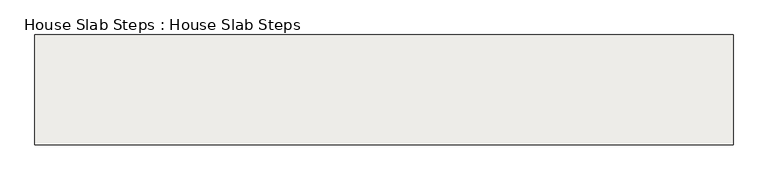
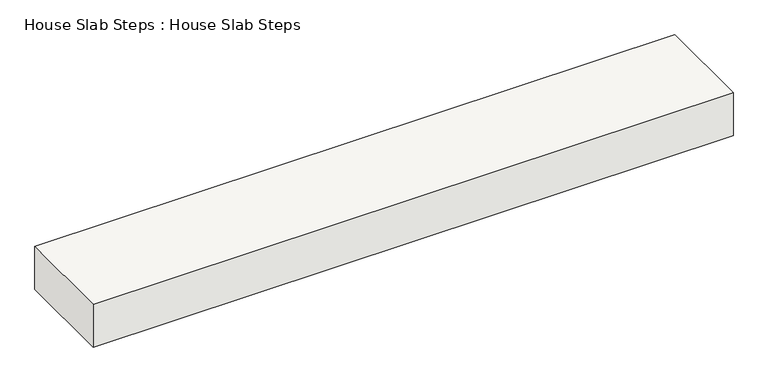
"""IFC4 building model written with IfcOpenShell, lengths in millimetres: slab geometry, House Slab Steps : House Slab Steps."""

from ifc_helpers import new_model, si_unit, frame, origin, place, context, project, spatial, polyline, outline, extrude, source, transform, mapped, element, save


def house_slab_steps_house_slab_steps_78859ea8(model_context):
    return source(origin(), model_context, "Body", "SweptSolid", [
        extrude(outline(polyline([(-13126.4610312, 217.9849287), (-13126.4610312, 522.7849287), (-11189.6178637, 522.7849287), (-11189.6178637, 217.9849287), (-13126.4610312, 217.9849287)])), frame((0.0, 0.0, -274.32), z_axis=(0.0, 0.0, 1.0), x_axis=(1.0, 0.0, 0.0)), (0.0, 0.0, 1.0), 137.16),
    ])


if __name__ == "__main__":
    model = new_model("IFC4")
    model_context = context("Model", 3, world=origin())
    ifc_project = project(units=[si_unit("LENGTHUNIT", "METRE", prefix="MILLI")], contexts=[model_context])
    site = spatial("IfcSite", under=ifc_project)
    building = spatial("IfcBuilding", under=site)
    placement = place(None, origin())
    house_slab_steps_house_slab_steps_shape = house_slab_steps_house_slab_steps_78859ea8(model_context)
    element("IfcSlab", 1, ObjectType="House Slab Steps : House Slab Steps", at=placement, inside=building, context=model_context, shape_type="MappedRepresentation", body=[
        mapped(house_slab_steps_house_slab_steps_shape, transform((0.0, 0.0, 0.0), x_axis=(1.0, 0.0, 0.0), y_axis=(0.0, 1.0, 0.0), z_axis=(0.0, 0.0, 1.0))),
    ])
    save(model, "model.ifc")
